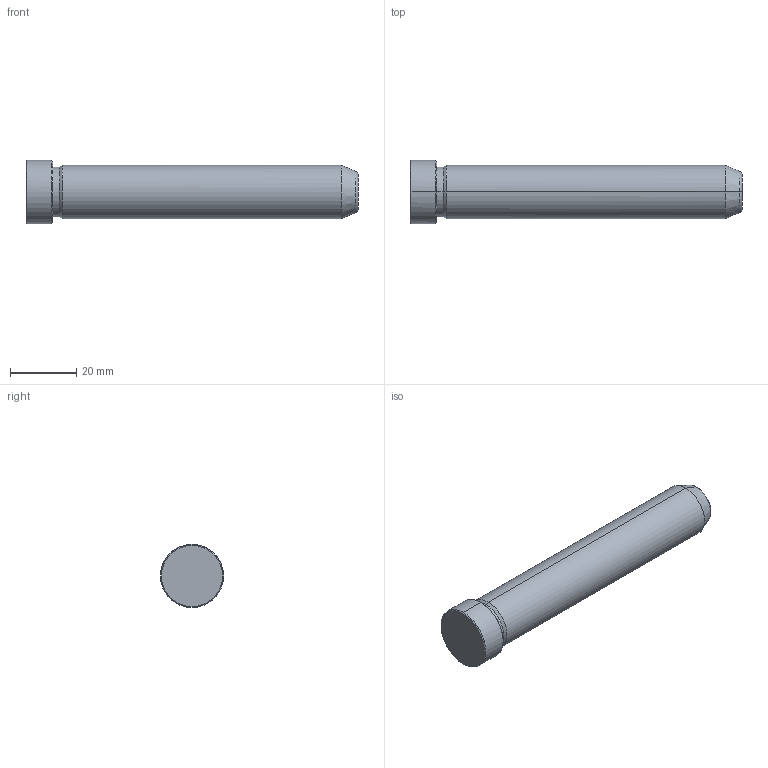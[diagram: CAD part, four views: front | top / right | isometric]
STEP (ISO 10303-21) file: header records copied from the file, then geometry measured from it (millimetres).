
FILE_DESCRIPTION(('CATIA V5 STEP Exchange'),'2;1');
FILE_NAME('C:\Users\Utente\Desktop\IO LAVORO\3D X SITO CF\X SITO\PLASTICA\549\549-16X100.stp','2021-12-11T09:34:02+00:00',('none'),('none'),'CATIA Version 5 Release 20 GA (IN-10)','CATIA V5 STEP AP203','none');
FILE_SCHEMA(('CONFIG_CONTROL_DESIGN'));
Length unit declared in the file: millimetre
Products named in the file (1): 549-16X100
Bounding box: 100 x 19 x 19 mm (x, y, z)
Volume: 20465.8 mm3; surface area: 5561.5 mm2
Topology: 1 solids, 1 shells, 19 faces, 56 edges, 40 vertices
Faces by surface type: cone 8, cylinder 6, plane 3, torus 2
Entity records: 736 total; most frequent: CARTESIAN_POINT 192, ORIENTED_EDGE 112, DIRECTION 86, EDGE_CURVE 56, AXIS2_PLACEMENT_3D 54, VERTEX_POINT 40, CIRCLE 34, EDGE_LOOP 20
